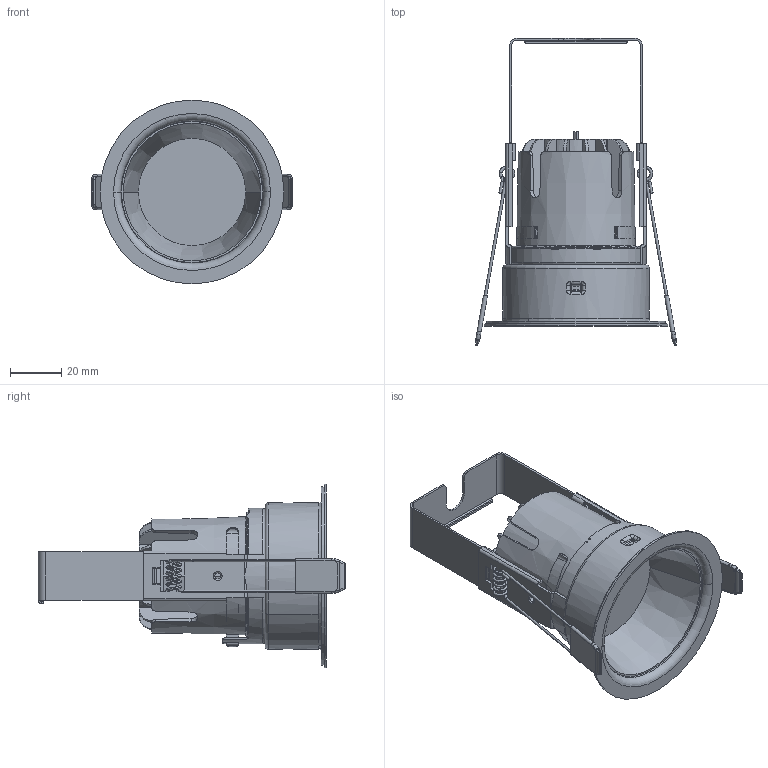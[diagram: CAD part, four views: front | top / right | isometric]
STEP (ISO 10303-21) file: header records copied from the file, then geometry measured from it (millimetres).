
FILE_DESCRIPTION((''),'2;1');
FILE_NAME('TC44003_ASM','2024-09-25T',('Administrator'),(''),'PRO/ENGINEER BY PARAMETRIC TECHNOLOGY CORPORATION, 2010280','PRO/ENGINEER BY PARAMETRIC TECHNOLOGY CORPORATION, 2010280','');
FILE_SCHEMA(('AUTOMOTIVE_DESIGN { 1 0 10303 214 1 1 1 1 }'));
Length unit declared in the file: millimetre
Products named in the file (24): W0624-1; SJ0561; SHENCAN65_ASM_14_A_001_04_SZ_07_ASM; 123_04_SZ_07_ASM; W0200-2_07; F0128_07; SJ0553_07; W0624-2_07; P0630_07; WG0737_07; W0614_07; W0201_07; P0190_07; Y1049_21; P12YXB_3; SJ0674_20; M3X6YT_1; P0722_3; GYB3C2B_1; M2-5_3; KF4414_2; FGZHI_1; TC34077_ASM_27_ASM; TC44003_ASM
Assembly tree (28 placements, depth 4):
  TC44003_ASM
    123_04_SZ_07_ASM
      SHENCAN65_ASM_14_A_001_04_SZ_07_ASM
        W0624-1
        SJ0561
    W0200-2_07
    F0128_07
    SJ0553_07
    W0624-2_07  x2
    P0630_07  x2
    WG0737_07  x2
    W0614_07
    W0201_07
    P0190_07
    TC34077_ASM_27_ASM
      Y1049_21
      P12YXB_3
      SJ0674_20
      M3X6YT_1  x2
      P0722_3
      GYB3C2B_1
      M2-5_3  x2
      KF4414_2
      FGZHI_1
Bounding box: 78.72 x 120.6 x 72 mm (x, y, z)
Volume: 63166.5 mm3; surface area: 85483 mm2
Topology: 25 solids, 29 shells, 1534 faces, 3923 edges, 2515 vertices
Faces by surface type: plane 700, cylinder 383, bspline 154, torus 126, cone 118, sphere 37, extrusion 16
Entity records: 53574 total; most frequent: CARTESIAN_POINT 15857, ORIENTED_EDGE 6872, DIRECTION 6723, EDGE_CURVE 3452, AXIS2_PLACEMENT_3D 2570, VERTEX_POINT 2220, VECTOR 1583, LINE 1567
